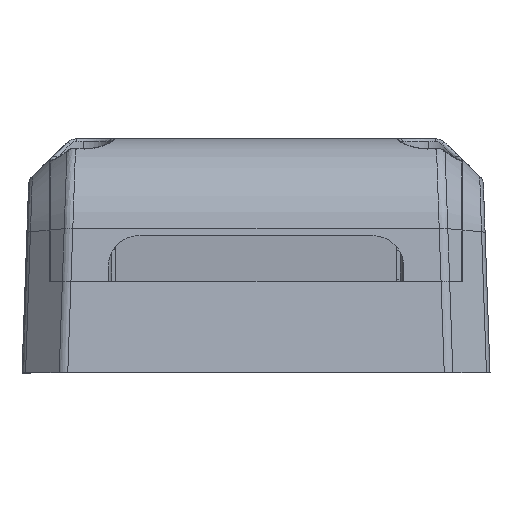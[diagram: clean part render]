
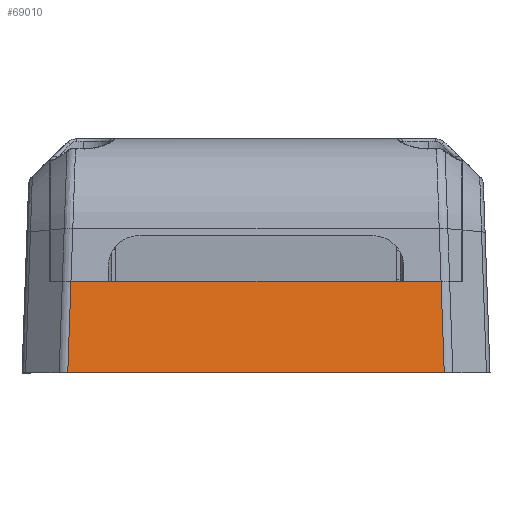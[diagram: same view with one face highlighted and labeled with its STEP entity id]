
A CAD part, left-side view. The second image highlights one B-rep face of the part: STEP entity #69010.
In plain terms, the highlighted planar face has unit normal (-0.993, 0, 0.122).
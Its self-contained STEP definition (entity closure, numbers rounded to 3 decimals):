
#66810=CARTESIAN_POINT('',(-33.618,69.552,8.463));
#66820=VERTEX_POINT('',#66810);
#68520=CARTESIAN_POINT('',(-33.618,33.177,
8.463));
#68530=VERTEX_POINT('',#68520);
#68560=CARTESIAN_POINT('',(-33.618,48.615,
8.463));
#68570=DIRECTION('',(0.,1.,0.));
#68580=VECTOR('',#68570,1.);
#68590=LINE('',#68560,#68580);
#68600=EDGE_CURVE('',#68530,#66820,#68590,.T.);
#68650=CARTESIAN_POINT('',(-34.723,28.365,
-0.537));
#68660=DIRECTION('',(-0.993,0.,0.122));
#68670=DIRECTION('',(0.,-1.,0.));
#68680=AXIS2_PLACEMENT_3D('',#68650,#68660,#68670);
#68690=PLANE('',#68680);
#68700=ORIENTED_EDGE('',*,*,#68600,.T.);
#68710=CARTESIAN_POINT('',(-33.595,33.184,
8.653));
#68720=CARTESIAN_POINT('',(-33.808,33.123,
6.917));
#68730=CARTESIAN_POINT('',(-34.021,33.062,
5.181));
#68740=CARTESIAN_POINT('',(-34.446,32.942,
1.721));
#68750=CARTESIAN_POINT('',(-34.657,32.881,
-0.003));
#68760=CARTESIAN_POINT('',(-34.869,32.821,
-1.728));
#68770=B_SPLINE_CURVE_WITH_KNOTS('',3,(#68710,#68720,#68730,#68740,
#68750,#68760),.UNSPECIFIED.,.F.,.F.,(4,2,4),(43.779,
49.028,54.244),.UNSPECIFIED.);
#68780=CARTESIAN_POINT('',(-34.723,32.863,
-0.538));
#68790=VERTEX_POINT('',#68780);
#68800=EDGE_CURVE('',#68530,#68790,#68770,.T.);
#68810=ORIENTED_EDGE('',*,*,#68800,.F.);
#68820=CARTESIAN_POINT('',(-34.723,74.365,
-0.537));
#68830=DIRECTION('',(0.,-1.,0.));
#68840=VECTOR('',#68830,1.);
#68850=LINE('',#68820,#68840);
#68860=CARTESIAN_POINT('',(-34.723,69.866,
-0.538));
#68870=VERTEX_POINT('',#68860);
#68880=EDGE_CURVE('',#68870,#68790,#68850,.T.);
#68890=ORIENTED_EDGE('',*,*,#68880,.T.);
#68900=CARTESIAN_POINT('',(-34.869,69.908,
-1.728));
#68910=CARTESIAN_POINT('',(-34.657,69.848,
-0.003));
#68920=CARTESIAN_POINT('',(-34.446,69.787,
1.721));
#68930=CARTESIAN_POINT('',(-34.021,69.667,
5.181));
#68940=CARTESIAN_POINT('',(-33.808,69.606,
6.917));
#68950=CARTESIAN_POINT('',(-33.595,69.545,
8.653));
#68960=B_SPLINE_CURVE_WITH_KNOTS('',3,(#68900,#68910,#68920,#68930,
#68940,#68950),.UNSPECIFIED.,.F.,.F.,(4,2,4),(45.679,
50.894,56.144),.UNSPECIFIED.);
#68970=EDGE_CURVE('',#68870,#66820,#68960,.T.);
#68980=ORIENTED_EDGE('',*,*,#68970,.F.);
#68990=EDGE_LOOP('',(#68980,#68890,#68810,#68700));
#69000=FACE_OUTER_BOUND('',#68990,.T.);
#69010=ADVANCED_FACE('',(#69000),#68690,.T.);
